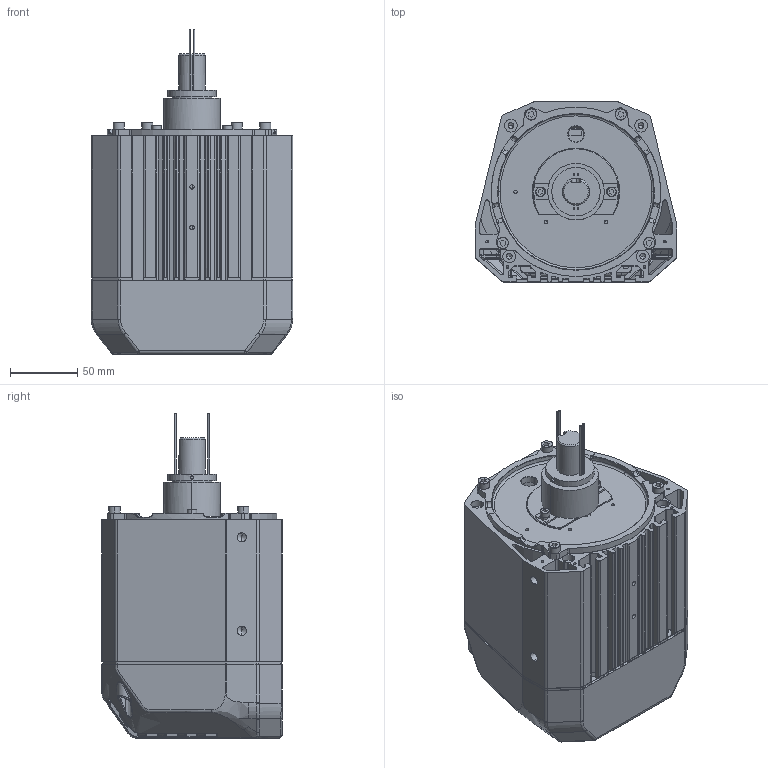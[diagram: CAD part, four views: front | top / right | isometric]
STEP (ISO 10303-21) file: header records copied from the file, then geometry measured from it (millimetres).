
FILE_DESCRIPTION (( 'STEP AP214' ), '1' );
FILE_NAME ('18Nm俋倛.STEP', '2024-10-18T03:44:13', ( '' ), ( '' ), 'SwSTEP 2.0', 'SolidWorks 2018', '' );
FILE_SCHEMA (( 'AUTOMOTIVE_DESIGN' ));
Length unit declared in the file: millimetre
Products named in the file (25): DDWS08001301 蹟隊; DDWS08002001 蹟隊; DDTW04000701 傷裔; DDWE55002701 蟀諉ん; DDWS11000401 路燭翐; 18Nm俋倛; DDTW02001301 H58蛌粣; DDWS08001301 螺钉_M5×12; DDTW02001301 H58蛌粣_俋楷; DDTW03000301 H58萇儂俋褲; DDTB12001601 ES2101-恩速赛车基座PCBA; DDTF02000801 端盖（注塑）
Assembly tree (15 placements, depth 2):
  DDWS08001301 蹟隊
  DDWS08002001 蹟隊
  DDTW04000701 傷裔
  DDTW04000701 傷裔
  DDWS11000401 路燭翐
Bounding box: 150 x 134 x 241.5 mm (x, y, z)
Volume: 864553.8 mm3; surface area: 402591.3 mm2
Topology: 373 solids, 375 shells, 6961 faces, 17203 edges, 11080 vertices
Faces by surface type: plane 4591, cylinder 1405, bspline 464, torus 270, cone 193, sphere 38
Entity records: 303507 total; most frequent: CARTESIAN_POINT 89986, ORIENTED_EDGE 33018, DIRECTION 29876, EDGE_CURVE 16509, VECTOR 11696, LINE 11696, VERTEX_POINT 10699, AXIS2_PLACEMENT_3D 9090
